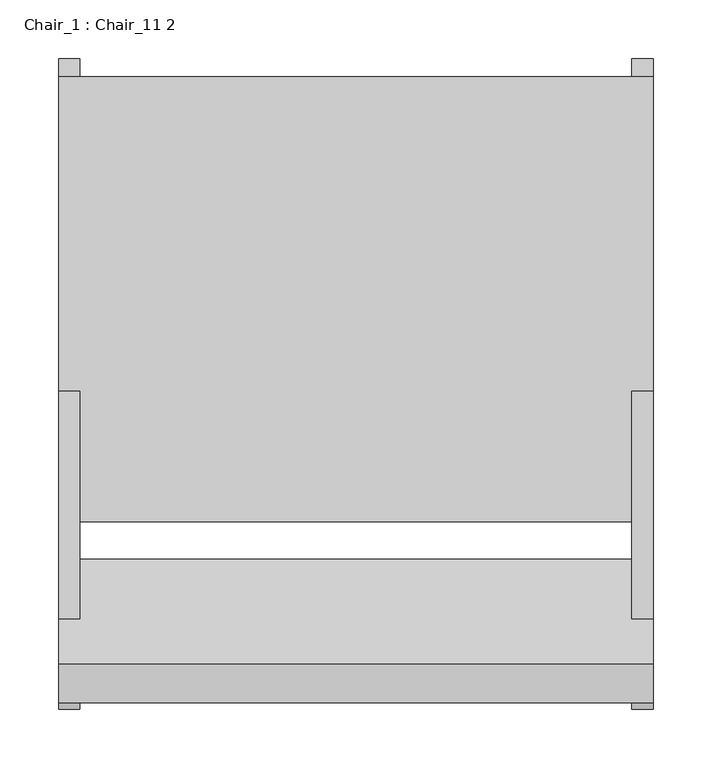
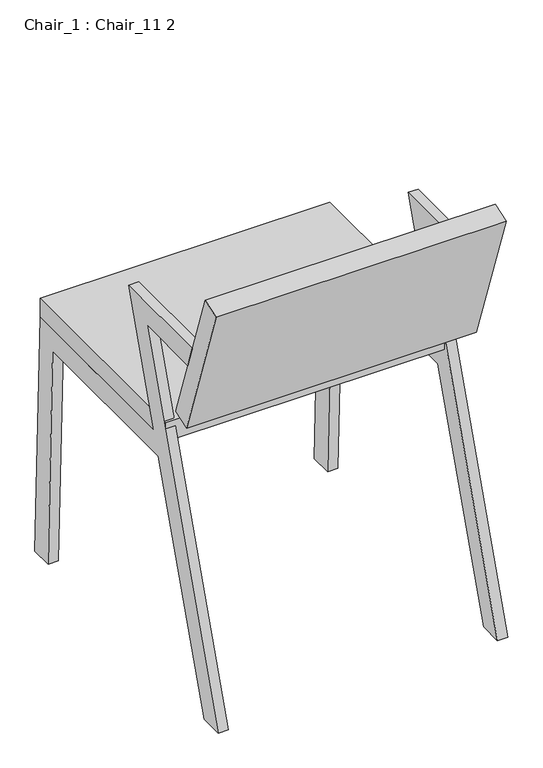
"""IFC4 building model written with IfcOpenShell, lengths in millimetres: furniture geometry, Chair_1 : Chair_11 2."""

from ifc_helpers import new_model, si_unit, frame, origin, place, context, project, spatial, polyline, outline, extrude, source, transform, mapped, element, save


def chair_1_chair_11_2_eeb455fd(model_context):
    return source(origin(), model_context, "Body", "SweptSolid", [
        extrude(outline(polyline([(-62.4788145, 625.1318884), (-186.5017423, 625.1318884), (-200.2748468, 665.1318884), (-6.4008827, 665.1318884), (-83.0046548, 442.6583803), (262.2710144, 442.6583803), (277.7289856, 0.0), (237.7046039, 0.0), (223.6434634, 402.6583803), (-96.7777593, 402.6583803), (-235.4241584, 0.0), (-277.7289856, 0.0), (-62.4788145, 625.1318884)])), frame((-253.7553525, 0.0, 0.0), z_axis=(1.0, 0.0, 0.0), x_axis=(0.0, 1.0, 0.0)), (0.0, 0.0, 1.0), 18.0611925),
        extrude(outline(polyline([(-62.4788145, 625.1318884), (-186.5017423, 625.1318884), (-200.2748468, 665.1318884), (-6.4008827, 665.1318884), (-83.0046548, 442.6583803), (262.2710144, 442.6583803), (277.7289856, 0.0), (237.7046039, 0.0), (223.6434634, 402.6583803), (-96.7777593, 402.6583803), (-235.4241584, 0.0), (-277.7289856, 0.0), (-62.4788145, 625.1318884)])), frame((235.69416, 0.0, 0.0), z_axis=(1.0, 0.0, 0.0), x_axis=(0.0, 1.0, 0.0)), (0.0, 0.0, 1.0), 18.0611925),
        extrude(outline(polyline([(253.7553525, -117.7289856), (-253.7553525, -117.7289856), (-253.7553525, 262.2710144), (253.7553525, 262.2710144), (253.7553525, -117.7289856)])), frame((0.0, 0.0, 442.6583803), z_axis=(0.0, 0.0, 1.0), x_axis=(1.0, 0.0, 0.0)), (0.0, 0.0, 1.0), 35.0),
        extrude(outline(polyline([(0.0, 35.0), (507.510705, 35.0), (507.510705, 0.0), (0.0, 0.0), (0.0, 35.0)])), frame((253.7553525, -149.6855255, 518.2098312), z_axis=(0.0, -0.32556815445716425, 0.9455185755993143), x_axis=(-1.0, 0.0, 0.0)), (0.0, 0.0, 1.0), 275.0),
    ])


if __name__ == "__main__":
    model = new_model("IFC4")
    model_context = context("Model", 3, world=origin())
    ifc_project = project(units=[si_unit("LENGTHUNIT", "METRE", prefix="MILLI")], contexts=[model_context])
    site = spatial("IfcSite", under=ifc_project)
    building = spatial("IfcBuilding", under=site)
    placement = place(None, origin())
    chair_1_chair_11_2_shape = chair_1_chair_11_2_eeb455fd(model_context)
    element("IfcFurniture", 1, ObjectType="Chair_1 : Chair_11 2", at=placement, inside=building, context=model_context, shape_type="MappedRepresentation", body=[
        mapped(chair_1_chair_11_2_shape, transform((0.0, 0.0, 0.0), x_axis=(1.0, 0.0, 0.0), y_axis=(0.0, 1.0, 0.0), z_axis=(0.0, 0.0, 1.0))),
    ])
    save(model, "model.ifc")
